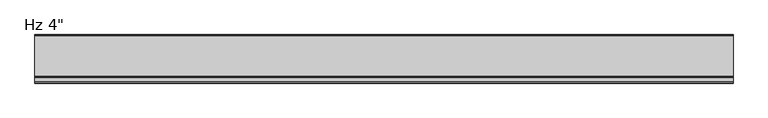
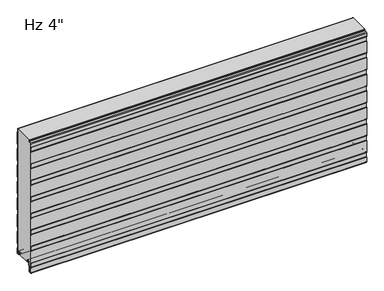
"""IFC4 building model written with IfcOpenShell, lengths in millimetres: plate geometry."""

from ifc_helpers import new_model, si_unit, point, frame, frame_2d, origin, place, context, project, spatial, polyline, circle_curve, trimmed, segment, composite_curve, outline, extrude, source, transform, mapped, element, save
from ifc_brep_helpers import plane_surface, cylinder_surface, revolved_surface, advanced_brep


def plate_1b91cf0f(model_context):
    return source(origin(), model_context, "Body", "SolidModel", [
        advanced_brep(
        [(-730.0, -17.0015368, 2.0313088), (-730.0, -18.00154, 1.0313116), (-730.0, -19.0015313, 2.0313088), (-730.0, -19.0015314, 6.0315125), (-730.0, -18.0015368, 6.0315125), (-730.0, -18.0015368, 8.7237223), (-730.0, -14.7015411, 12.023718), (-730.0, -10.3015499, 12.023718), (-730.0, -7.0015544, 8.7237225), (-730.0, -7.0015544, -1.6962564), (-730.0, -5.2315602, -3.4662506), (-730.0, -1.0000126, -3.4662506), (-730.0, -1.0000126, 21.034026), (-730.0, -2.2002516, 22.4196686), (-730.0, -2.2002516, 41.7948349), (-730.0, -1.0000209, 43.1804679), (-730.0, -1.0000209, 97.2338833), (-730.0, -2.2002516, 98.6195162), (-730.0, -2.2002516, 117.9946825), (-730.0, -1.0000209, 119.3803155), (-730.0, -1.0000209, 173.4337309), (-730.0, -2.2002516, 174.8193638), (-730.0, -2.2002516, 194.1945301), (-730.0, -1.0000209, 195.5801631), (-730.0, -1.0000209, 249.6335785), (-730.0, -2.2002516, 251.0192114), (-730.0, -2.2002516, 270.3943777), (-730.0, -1.0000209, 271.7800107), (-730.0, -1.0000209, 325.8334261), (-730.0, -2.2002516, 327.219059), (-730.0, -2.2002516, 346.5942253), (-730.0, -1.0000209, 347.9798583), (-730.0, -1.0000209, 402.0332737), (-730.0, -2.2002516, 403.4189066), (-730.0, -2.2002516, 422.7940729), (-730.0, -1.0000209, 424.1797059), (-730.0, -1.0000209, 478.2331213), (-730.0, -2.2002516, 479.6187542), (-730.0, -2.2002516, 498.9939205), (-730.0, -1.0000209, 500.3795535), (-730.0, -1.0000209, 554.4329689), (-730.0, -2.2002516, 555.8186018), (-730.0, -2.2002516, 571.2), (-730.0, -1.2002516, 571.2), (-730.0, -1.2002516, 556.1914823), (-730.0, -0.3418094, 555.2004346), (-730.0, -2.09e-05, 554.2838177), (-730.0, -2.09e-05, 500.5287046), (-730.0, -0.3418094, 499.6120877), (-730.0, -1.2002516, 498.6210401), (-730.0, -1.2002516, 479.9916347), (-730.0, -0.3418094, 479.000587), (-730.0, -2.09e-05, 478.0839701), (-730.0, -2.09e-05, 424.328857), (-730.0, -0.3418094, 423.4122401), (-730.0, -1.2002516, 422.4211925), (-730.0, -1.2002516, 403.7917871), (-730.0, -0.3418094, 402.8007394), (-730.0, -2.09e-05, 401.8841225), (-730.0, -2.09e-05, 348.1290094), (-730.0, -0.3418094, 347.2123925), (-730.0, -1.2002516, 346.2213449), (-730.0, -1.2002516, 327.5919395), (-730.0, -0.3418094, 326.6008918), (-730.0, -2.09e-05, 325.6842749), (-730.0, -2.09e-05, 271.9291618), (-730.0, -0.3418094, 271.0125449), (-730.0, -1.2002516, 270.0214973), (-730.0, -1.2002516, 251.3920919), (-730.0, -0.3418094, 250.4010442), (-730.0, -2.09e-05, 249.4844273), (-730.0, -2.09e-05, 195.7293142), (-730.0, -0.3418094, 194.8126973), (-730.0, -1.2002516, 193.8216497), (-730.0, -1.2002516, 175.1922443), (-730.0, -0.3418094, 174.2011966), (-730.0, -2.09e-05, 173.2845797), (-730.0, -2.09e-05, 119.5294666), (-730.0, -0.3418094, 118.6128497), (-730.0, -1.2002516, 117.6218021), (-730.0, -1.2002516, 98.9923967), (-730.0, -0.3418094, 98.001349), (-730.0, -2.09e-05, 97.0847321), (-730.0, -2.09e-05, 43.329619), (-730.0, -0.3418094, 42.4130021), (-730.0, -1.2002516, 41.4219545), (-730.0, -1.2002516, 22.7925491), (-730.0, -0.3418094, 21.8015014), (-730.0, -2.09e-05, 20.8847931), (-730.0, -1.26e-05, -3.0662545), (-730.0, -1.4000087, -4.4662506), (-730.0, -5.2315602, -4.4662506), (-730.0, -8.0015544, -1.6962564), (-730.0, -8.0015544, 8.7237225), (-730.0, -10.3015499, 11.023718), (-730.0, -14.7015411, 11.023718), (-730.0, -17.0015368, 8.7237223), (730.0, -17.0015368, 2.0313088), (730.0, -17.0015368, 8.7237223), (730.0, -14.7015411, 11.023718), (730.0, -10.3015499, 11.023718), (730.0, -8.0015544, 8.7237225), (730.0, -8.0015544, -1.6962564), (730.0, -5.2315602, -4.4662506), (730.0, -1.4000087, -4.4662506), (730.0, -1.26e-05, -3.0662545), (730.0, -1.26e-05, 20.8848845), (730.0, -0.3418094, 21.8015014), (730.0, -1.2002516, 22.7925491), (730.0, -1.2002516, 41.4219545), (730.0, -0.3418094, 42.4130021), (730.0, -2.09e-05, 43.329619), (730.0, -2.09e-05, 97.0847321), (730.0, -0.3418094, 98.001349), (730.0, -1.2002516, 98.9923967), (730.0, -1.2002516, 117.6218021), (730.0, -0.3418094, 118.6128497), (730.0, -2.09e-05, 119.5294666), (730.0, -2.09e-05, 173.2845797), (730.0, -0.3418094, 174.2011966), (730.0, -1.2002516, 175.1922443), (730.0, -1.2002516, 193.8216497), (730.0, -0.3418094, 194.8126973), (730.0, -2.09e-05, 195.7293142), (730.0, -2.09e-05, 249.4844273), (730.0, -0.3418094, 250.4010442), (730.0, -1.2002516, 251.3920919), (730.0, -1.2002516, 270.0214973), (730.0, -0.3418094, 271.0125449), (730.0, -2.09e-05, 271.9291618), (730.0, -2.09e-05, 325.6842749), (730.0, -0.3418094, 326.6008918), (730.0, -1.2002516, 327.5919395), (730.0, -1.2002516, 346.2213449), (730.0, -0.3418094, 347.2123925), (730.0, -2.09e-05, 348.1290094), (730.0, -2.09e-05, 401.8841225), (730.0, -0.3418094, 402.8007394), (730.0, -1.2002516, 403.7917871), (730.0, -1.2002516, 422.4211925), (730.0, -0.3418094, 423.4122401), (730.0, -2.09e-05, 424.328857), (730.0, -2.09e-05, 478.0839701), (730.0, -0.3418094, 479.000587), (730.0, -1.2002516, 479.9916347), (730.0, -1.2002516, 498.6210401), (730.0, -0.3418094, 499.6120877), (730.0, -2.09e-05, 500.5287046), (730.0, -2.09e-05, 554.2838177), (730.0, -0.3418094, 555.2004346), (730.0, -1.2002516, 556.1914823), (730.0, -1.2002516, 571.2), (730.0, -2.2002516, 571.2), (730.0, -2.2002516, 555.8186018), (730.0, -1.0000209, 554.4329689), (730.0, -1.0000209, 500.3795535), (730.0, -2.2002516, 498.9939205), (730.0, -2.2002516, 479.6187542), (730.0, -1.0000209, 478.2331213), (730.0, -1.0000209, 424.1797059), (730.0, -2.2002516, 422.7940729), (730.0, -2.2002516, 403.4189066), (730.0, -1.0000209, 402.0332737), (730.0, -1.0000209, 347.9798583), (730.0, -2.2002516, 346.5942253), (730.0, -2.2002516, 327.219059), (730.0, -1.0000209, 325.8334261), (730.0, -1.0000209, 271.7800107), (730.0, -2.2002516, 270.3943777), (730.0, -2.2002516, 251.0192114), (730.0, -1.0000209, 249.6335785), (730.0, -1.0000209, 195.5801631), (730.0, -2.2002516, 194.1945301), (730.0, -2.2002516, 174.8193638), (730.0, -1.0000209, 173.4337309), (730.0, -1.0000209, 119.3803155), (730.0, -2.2002516, 117.9946825), (730.0, -2.2002516, 98.6195162), (730.0, -1.0000209, 97.2338833), (730.0, -1.0000209, 43.1804679), (730.0, -2.2002516, 41.7948349), (730.0, -2.2002516, 22.4196686), (730.0, -1.0000126, 21.034026), (730.0, -1.0000126, -3.4662506), (730.0, -5.2315602, -3.4662506), (730.0, -7.0015544, -1.6962564), (730.0, -7.0015544, 8.7237225), (730.0, -10.3015499, 12.023718), (730.0, -14.7015411, 12.023718), (730.0, -18.0015368, 8.7237223), (730.0, -18.0015368, 6.0315125), (730.0, -19.0015314, 6.0315125), (730.0, -19.0015314, 2.0313088), (730.0, -18.00154, 1.0313116)],
        [
            (0, 1, circle_curve(frame((-730.0, -18.0015341, 2.0313088), z_axis=(-1.0, 0.0, 0.0), x_axis=(0.0, 0.0, 1.0)), 0.9999973)),
            (1, 2, circle_curve(frame((-730.0, -18.0015341, 2.0313088), z_axis=(-1.0, 0.0, 0.0), x_axis=(0.0, 0.0, 1.0)), 0.9999972)),
            (2, 3),
            (3, 4),
            (4, 5),
            (5, 6, circle_curve(frame((-730.0, -14.7015411, 8.7237223), z_axis=(-1.0, 0.0, 0.0), x_axis=(0.0, 0.0, 1.0)), 3.2999957)),
            (6, 7),
            (7, 8, circle_curve(frame((-730.0, -10.3015499, 8.7237225), z_axis=(-1.0, 0.0, 0.0), x_axis=(0.0, 0.0, 1.0)), 3.2999955)),
            (8, 9),
            (9, 10, circle_curve(frame((-730.0, -5.2315602, -1.6962564), z_axis=(1.0, 0.0, 0.0), x_axis=(0.0, 0.0, 1.0)), 1.7699942)),
            (10, 11),
            (11, 12),
            (12, 13),
            (13, 14),
            (14, 15),
            (15, 16),
            (16, 17),
            (17, 18),
            (18, 19),
            (19, 20),
            (20, 21),
            (21, 22),
            (22, 23),
            (23, 24),
            (24, 25),
            (25, 26),
            (26, 27),
            (27, 28),
            (28, 29),
            (29, 30),
            (30, 31),
            (31, 32),
            (32, 33),
            (33, 34),
            (34, 35),
            (35, 36),
            (36, 37),
            (37, 38),
            (38, 39),
            (39, 40),
            (40, 41),
            (41, 42),
            (42, 43),
            (43, 44),
            (44, 45),
            (45, 46, circle_curve(frame((-730.0, -1.4000181, 554.2838177), z_axis=(-1.0, 0.0, 0.0), x_axis=(0.0, 0.0, 1.0)), 1.3999972)),
            (46, 47),
            (47, 48, circle_curve(frame((-730.0, -1.4000181, 500.5287046), z_axis=(-1.0, 0.0, 0.0), x_axis=(0.0, 0.0, 1.0)), 1.3999972)),
            (48, 49),
            (49, 50),
            (50, 51),
            (51, 52, circle_curve(frame((-730.0, -1.4000181, 478.0839701), z_axis=(-1.0, 0.0, 0.0), x_axis=(0.0, 0.0, 1.0)), 1.3999972)),
            (52, 53),
            (53, 54, circle_curve(frame((-730.0, -1.4000181, 424.328857), z_axis=(-1.0, 0.0, 0.0), x_axis=(0.0, 0.0, 1.0)), 1.3999972)),
            (54, 55),
            (55, 56),
            (56, 57),
            (57, 58, circle_curve(frame((-730.0, -1.4000181, 401.8841225), z_axis=(-1.0, 0.0, 0.0), x_axis=(0.0, 0.0, 1.0)), 1.3999972)),
            (58, 59),
            (59, 60, circle_curve(frame((-730.0, -1.4000181, 348.1290094), z_axis=(-1.0, 0.0, 0.0), x_axis=(0.0, 0.0, 1.0)), 1.3999972)),
            (60, 61),
            (61, 62),
            (62, 63),
            (63, 64, circle_curve(frame((-730.0, -1.4000181, 325.6842749), z_axis=(-1.0, 0.0, 0.0), x_axis=(0.0, 0.0, 1.0)), 1.3999972)),
            (64, 65),
            (65, 66, circle_curve(frame((-730.0, -1.4000181, 271.9291618), z_axis=(-1.0, 0.0, 0.0), x_axis=(0.0, 0.0, 1.0)), 1.3999972)),
            (66, 67),
            (67, 68),
            (68, 69),
            (69, 70, circle_curve(frame((-730.0, -1.4000181, 249.4844273), z_axis=(-1.0, 0.0, 0.0), x_axis=(0.0, 0.0, 1.0)), 1.3999972)),
            (70, 71),
            (71, 72, circle_curve(frame((-730.0, -1.4000181, 195.7293142), z_axis=(-1.0, 0.0, 0.0), x_axis=(0.0, 0.0, 1.0)), 1.3999972)),
            (72, 73),
            (73, 74),
            (74, 75),
            (75, 76, circle_curve(frame((-730.0, -1.4000181, 173.2845797), z_axis=(-1.0, 0.0, 0.0), x_axis=(0.0, 0.0, 1.0)), 1.3999972)),
            (76, 77),
            (77, 78, circle_curve(frame((-730.0, -1.4000181, 119.5294666), z_axis=(-1.0, 0.0, 0.0), x_axis=(0.0, 0.0, 1.0)), 1.3999972)),
            (78, 79),
            (79, 80),
            (80, 81),
            (81, 82, circle_curve(frame((-730.0, -1.4000181, 97.0847321), z_axis=(-1.0, 0.0, 0.0), x_axis=(0.0, 0.0, 1.0)), 1.3999972)),
            (82, 83),
            (83, 84, circle_curve(frame((-730.0, -1.4000181, 43.329619), z_axis=(-1.0, 0.0, 0.0), x_axis=(0.0, 0.0, 1.0)), 1.3999972)),
            (84, 85),
            (85, 86),
            (86, 87),
            (87, 88, circle_curve(frame((-730.0, -1.4000181, 20.8848845), z_axis=(-1.0, 0.0, 0.0), x_axis=(0.0, 0.0, 1.0)), 1.3999972)),
            (88, 89),
            (89, 90, circle_curve(frame((-730.0, -1.4000087, -3.0662545), z_axis=(-1.0, 0.0, 0.0), x_axis=(0.0, 0.0, 1.0)), 1.3999962)),
            (90, 91),
            (91, 92, circle_curve(frame((-730.0, -5.2315602, -1.6962564), z_axis=(-1.0, 0.0, 0.0), x_axis=(0.0, 0.0, 1.0)), 2.7699942)),
            (92, 93),
            (93, 94, circle_curve(frame((-730.0, -10.3015499, 8.7237225), z_axis=(1.0, 0.0, 0.0), x_axis=(0.0, 0.0, 1.0)), 2.2999955)),
            (94, 95),
            (95, 96, circle_curve(frame((-730.0, -14.7015411, 8.7237223), z_axis=(1.0, 0.0, 0.0), x_axis=(0.0, 0.0, 1.0)), 2.2999957)),
            (96, 0),
            (97, 98),
            (98, 99, circle_curve(frame((730.0, -14.7015411, 8.7237223), z_axis=(-1.0, 0.0, 0.0), x_axis=(0.0, 0.0, 1.0)), 2.2999957)),
            (99, 100),
            (100, 101, circle_curve(frame((730.0, -10.3015499, 8.7237225), z_axis=(-1.0, 0.0, 0.0), x_axis=(0.0, 0.0, 1.0)), 2.2999955)),
            (101, 102),
            (102, 103, circle_curve(frame((730.0, -5.2315602, -1.6962564), z_axis=(1.0, 0.0, 0.0), x_axis=(0.0, 0.0, 1.0)), 2.7699942)),
            (103, 104),
            (104, 105, circle_curve(frame((730.0, -1.4000087, -3.0662545), z_axis=(1.0, 0.0, 0.0), x_axis=(0.0, 0.0, 1.0)), 1.3999962)),
            (105, 106),
            (106, 107, circle_curve(frame((730.0, -1.4000181, 20.8848845), z_axis=(1.0, 0.0, 0.0), x_axis=(0.0, 0.0, 1.0)), 1.3999972)),
            (107, 108),
            (108, 109),
            (109, 110),
            (110, 111, circle_curve(frame((730.0, -1.4000181, 43.329619), z_axis=(1.0, 0.0, 0.0), x_axis=(0.0, 0.0, 1.0)), 1.3999972)),
            (111, 112),
            (112, 113, circle_curve(frame((730.0, -1.4000181, 97.0847321), z_axis=(1.0, 0.0, 0.0), x_axis=(0.0, 0.0, 1.0)), 1.3999972)),
            (113, 114),
            (114, 115),
            (115, 116),
            (116, 117, circle_curve(frame((730.0, -1.4000181, 119.5294666), z_axis=(1.0, 0.0, 0.0), x_axis=(0.0, 0.0, 1.0)), 1.3999972)),
            (117, 118),
            (118, 119, circle_curve(frame((730.0, -1.4000181, 173.2845797), z_axis=(1.0, 0.0, 0.0), x_axis=(0.0, 0.0, 1.0)), 1.3999972)),
            (119, 120),
            (120, 121),
            (121, 122),
            (122, 123, circle_curve(frame((730.0, -1.4000181, 195.7293142), z_axis=(1.0, 0.0, 0.0), x_axis=(0.0, 0.0, 1.0)), 1.3999972)),
            (123, 124),
            (124, 125, circle_curve(frame((730.0, -1.4000181, 249.4844273), z_axis=(1.0, 0.0, 0.0), x_axis=(0.0, 0.0, 1.0)), 1.3999972)),
            (125, 126),
            (126, 127),
            (127, 128),
            (128, 129, circle_curve(frame((730.0, -1.4000181, 271.9291618), z_axis=(1.0, 0.0, 0.0), x_axis=(0.0, 0.0, 1.0)), 1.3999972)),
            (129, 130),
            (130, 131, circle_curve(frame((730.0, -1.4000181, 325.6842749), z_axis=(1.0, 0.0, 0.0), x_axis=(0.0, 0.0, 1.0)), 1.3999972)),
            (131, 132),
            (132, 133),
            (133, 134),
            (134, 135, circle_curve(frame((730.0, -1.4000181, 348.1290094), z_axis=(1.0, 0.0, 0.0), x_axis=(0.0, 0.0, 1.0)), 1.3999972)),
            (135, 136),
            (136, 137, circle_curve(frame((730.0, -1.4000181, 401.8841225), z_axis=(1.0, 0.0, 0.0), x_axis=(0.0, 0.0, 1.0)), 1.3999972)),
            (137, 138),
            (138, 139),
            (139, 140),
            (140, 141, circle_curve(frame((730.0, -1.4000181, 424.328857), z_axis=(1.0, 0.0, 0.0), x_axis=(0.0, 0.0, 1.0)), 1.3999972)),
            (141, 142),
            (142, 143, circle_curve(frame((730.0, -1.4000181, 478.0839701), z_axis=(1.0, 0.0, 0.0), x_axis=(0.0, 0.0, 1.0)), 1.3999972)),
            (143, 144),
            (144, 145),
            (145, 146),
            (146, 147, circle_curve(frame((730.0, -1.4000181, 500.5287046), z_axis=(1.0, 0.0, 0.0), x_axis=(0.0, 0.0, 1.0)), 1.3999972)),
            (147, 148),
            (148, 149, circle_curve(frame((730.0, -1.4000181, 554.2838177), z_axis=(1.0, 0.0, 0.0), x_axis=(0.0, 0.0, 1.0)), 1.3999972)),
            (149, 150),
            (150, 151),
            (151, 152),
            (152, 153),
            (153, 154),
            (154, 155),
            (155, 156),
            (156, 157),
            (157, 158),
            (158, 159),
            (159, 160),
            (160, 161),
            (161, 162),
            (162, 163),
            (163, 164),
            (164, 165),
            (165, 166),
            (166, 167),
            (167, 168),
            (168, 169),
            (169, 170),
            (170, 171),
            (171, 172),
            (172, 173),
            (173, 174),
            (174, 175),
            (175, 176),
            (176, 177),
            (177, 178),
            (178, 179),
            (179, 180),
            (180, 181),
            (181, 182),
            (182, 183),
            (183, 184),
            (184, 185, circle_curve(frame((730.0, -5.2315602, -1.6962564), z_axis=(-1.0, 0.0, 0.0), x_axis=(0.0, 0.0, 1.0)), 1.7699942)),
            (185, 186),
            (186, 187, circle_curve(frame((730.0, -10.3015499, 8.7237225), z_axis=(1.0, 0.0, 0.0), x_axis=(0.0, 0.0, 1.0)), 3.2999955)),
            (187, 188),
            (188, 189, circle_curve(frame((730.0, -14.7015411, 8.7237223), z_axis=(1.0, 0.0, 0.0), x_axis=(0.0, 0.0, 1.0)), 3.2999957)),
            (189, 190),
            (190, 191),
            (191, 192),
            (192, 193, circle_curve(frame((730.0, -18.0015341, 2.0313088), z_axis=(1.0, 0.0, 0.0), x_axis=(0.0, 0.0, 1.0)), 0.9999972)),
            (193, 97, circle_curve(frame((730.0, -18.0015341, 2.0313088), z_axis=(1.0, 0.0, 0.0), x_axis=(0.0, 0.0, 1.0)), 0.9999973)),
            (96, 98),
            (97, 0),
            (95, 99),
            (94, 100),
            (93, 101),
            (92, 102),
            (91, 103),
            (90, 104),
            (89, 105),
            (88, 106),
            (70, 124),
            (123, 71),
            (87, 107),
            (86, 108),
            (85, 109),
            (83, 111),
            (110, 84),
            (81, 113),
            (112, 82),
            (66, 128),
            (127, 67),
            (122, 72),
            (121, 73),
            (76, 118),
            (117, 77),
            (69, 125),
            (68, 126),
            (65, 129),
            (116, 78),
            (79, 115),
            (114, 80),
            (75, 119),
            (74, 120),
            (2, 192),
            (191, 3),
            (1, 193),
            (64, 130),
            (63, 131),
            (62, 132),
            (61, 133),
            (60, 134),
            (59, 135),
            (58, 136),
            (31, 163),
            (162, 32),
            (30, 164),
            (29, 165),
            (28, 166),
            (27, 167),
            (26, 168),
            (25, 169),
            (24, 170),
            (23, 171),
            (22, 172),
            (21, 173),
            (20, 174),
            (19, 175),
            (18, 176),
            (17, 177),
            (16, 178),
            (15, 179),
            (14, 180),
            (13, 181),
            (12, 182),
            (11, 183),
            (10, 184),
            (9, 185),
            (8, 186),
            (7, 187),
            (6, 188),
            (5, 189),
            (4, 190),
            (42, 152),
            (151, 43),
            (57, 137),
            (56, 138),
            (54, 140),
            (139, 55),
            (51, 143),
            (142, 52),
            (50, 144),
            (48, 146),
            (145, 49),
            (45, 149),
            (148, 46),
            (44, 150),
            (41, 153),
            (40, 154),
            (39, 155),
            (38, 156),
            (53, 141),
            (47, 147),
            (37, 157),
            (36, 158),
            (35, 159),
            (34, 160),
            (33, 161),
        ],
        [
            plane_surface(frame((-730.0, -2.09e-05, 304.8), z_axis=(-1.0, 0.0, 0.0), x_axis=(0.0, 1.0, 0.0))),
            plane_surface(frame((730.0, -2.09e-05, 304.8), z_axis=(1.0, 0.0, 0.0), x_axis=(0.0, 1.0, 0.0))),
            plane_surface(frame((-730.0, -17.0015368, 2.0313088), z_axis=(0.0, 1.0, 0.0), x_axis=(1.0, 0.0, 0.0))),
            revolved_surface(polyline([(730.0, -14.7015411, 11.023718), (-730.0, -14.7015411, 11.023718)]), (-730.0, -14.7015411, 8.7237223), (1.0, 0.0, 0.0)),
            plane_surface(frame((-730.0, -14.7015411, 11.023718), z_axis=(0.0, 0.0, -1.0), x_axis=(1.0, 0.0, 0.0))),
            revolved_surface(polyline([(730.0, -10.3015499, 11.023717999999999), (-730.0, -10.3015499, 11.023717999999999)]), (-730.0, -10.3015499, 8.7237225), (1.0, 0.0, 0.0)),
            plane_surface(frame((-730.0, -8.0015544, 8.7237225), z_axis=(0.0, -1.0, 0.0), x_axis=(1.0, 0.0, 0.0))),
            cylinder_surface(frame((-730.0, -5.2315602, -1.6962564), z_axis=(-1.0, 0.0, 0.0), x_axis=(0.0, 0.0, 1.0)), 2.7699942),
            plane_surface(frame((-730.0, -5.2315602, -4.4662506), z_axis=(0.0, 0.0, -1.0), x_axis=(1.0, 0.0, 0.0))),
            cylinder_surface(frame((-730.0, -1.4000087, -3.0662545), z_axis=(-1.0, 0.0, 0.0), x_axis=(0.0, 0.0, 1.0)), 1.3999962),
            plane_surface(frame((-730.0, -1.26e-05, -3.0662545), z_axis=(0.0, 1.0, 0.0), x_axis=(1.0, 0.0, 0.0))),
            plane_surface(frame((-730.0, -2.09e-05, 195.7293142), z_axis=(0.0, 1.0, 0.0), x_axis=(1.0, 0.0, 0.0))),
            cylinder_surface(frame((-730.0, -1.4000181, 20.8848845), z_axis=(-1.0, 0.0, 0.0), x_axis=(0.0, 0.0, 1.0)), 1.3999972),
            plane_surface(frame((-730.0, -0.3418094, 21.8015014), z_axis=(0.0, 0.755864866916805, 0.6547276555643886), x_axis=(1.0, 0.0, 0.0))),
            plane_surface(frame((-730.0, -1.2002516, 32.1072518), z_axis=(0.0, 1.0, 0.0), x_axis=(1.0, 0.0, 0.0))),
            cylinder_surface(frame((-730.0, -1.4000181, 43.329619), z_axis=(-1.0, 0.0, 0.0), x_axis=(0.0, 0.0, 1.0)), 1.3999972),
            plane_surface(frame((-730.0, -1.2002516, 41.4219545), z_axis=(0.0, 0.755864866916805, -0.6547276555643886), x_axis=(1.0, 0.0, 0.0))),
            cylinder_surface(frame((-730.0, -1.4000181, 97.0847321), z_axis=(-1.0, 0.0, 0.0), x_axis=(0.0, 0.0, 1.0)), 1.3999972),
            plane_surface(frame((-730.0, -1.2002516, 270.0214973), z_axis=(0.0, 0.755864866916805, -0.6547276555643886), x_axis=(1.0, 0.0, 0.0))),
            cylinder_surface(frame((-730.0, -1.4000181, 195.7293142), z_axis=(-1.0, 0.0, 0.0), x_axis=(0.0, 0.0, 1.0)), 1.3999972),
            plane_surface(frame((-730.0, -1.2002516, 193.8216497), z_axis=(0.0, 0.755864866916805, -0.6547276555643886), x_axis=(1.0, 0.0, 0.0))),
            plane_surface(frame((-730.0, -2.09e-05, 119.5294666), z_axis=(0.0, 1.0, 0.0), x_axis=(1.0, 0.0, 0.0))),
            cylinder_surface(frame((-730.0, -1.4000181, 249.4844273), z_axis=(-1.0, 0.0, 0.0), x_axis=(0.0, 0.0, 1.0)), 1.3999972),
            plane_surface(frame((-730.0, -0.3418094, 250.4010442), z_axis=(0.0, 0.755864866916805, 0.6547276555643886), x_axis=(1.0, 0.0, 0.0))),
            plane_surface(frame((-730.0, -1.2002516, 260.7067946), z_axis=(0.0, 1.0, 0.0), x_axis=(1.0, 0.0, 0.0))),
            cylinder_surface(frame((-730.0, -1.4000181, 271.9291618), z_axis=(-1.0, 0.0, 0.0), x_axis=(0.0, 0.0, 1.0)), 1.3999972),
            cylinder_surface(frame((-730.0, -1.4000181, 119.5294666), z_axis=(-1.0, 0.0, 0.0), x_axis=(0.0, 0.0, 1.0)), 1.3999972),
            plane_surface(frame((-730.0, -1.2002516, 108.3070994), z_axis=(0.0, 1.0, 0.0), x_axis=(1.0, 0.0, 0.0))),
            plane_surface(frame((-730.0, -0.3418094, 98.001349), z_axis=(0.0, 0.755864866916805, 0.6547276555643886), x_axis=(1.0, 0.0, 0.0))),
            plane_surface(frame((-730.0, -1.2002516, 117.6218021), z_axis=(0.0, 0.755864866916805, -0.6547276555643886), x_axis=(1.0, 0.0, 0.0))),
            plane_surface(frame((-730.0, -2.09e-05, 43.329619), z_axis=(0.0, 1.0, 0.0), x_axis=(1.0, 0.0, 0.0))),
            cylinder_surface(frame((-730.0, -1.4000181, 173.2845797), z_axis=(-1.0, 0.0, 0.0), x_axis=(0.0, 0.0, 1.0)), 1.3999972),
            plane_surface(frame((-730.0, -0.3418094, 174.2011966), z_axis=(0.0, 0.755864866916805, 0.6547276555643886), x_axis=(1.0, 0.0, 0.0))),
            plane_surface(frame((-730.0, -1.2002516, 184.506947), z_axis=(0.0, 1.0, 0.0), x_axis=(1.0, 0.0, 0.0))),
            plane_surface(frame((-730.0, -19.0015314, 6.0315125), z_axis=(0.0, -1.0, 0.0), x_axis=(1.0, 0.0, 0.0))),
            cylinder_surface(frame((-730.0, -18.0015341, 2.0313088), z_axis=(-1.0, 0.0, 0.0), x_axis=(0.0, 0.0, 1.0)), 0.9999972),
            cylinder_surface(frame((-730.0, -18.0015341, 2.0313088), z_axis=(-1.0, 0.0, 0.0), x_axis=(0.0, 0.0, 1.0)), 0.9999973),
            plane_surface(frame((-730.0, -2.09e-05, 271.9291618), z_axis=(0.0, 1.0, 0.0), x_axis=(1.0, 0.0, 0.0))),
            cylinder_surface(frame((-730.0, -1.4000181, 325.6842749), z_axis=(-1.0, 0.0, 0.0), x_axis=(0.0, 0.0, 1.0)), 1.3999972),
            plane_surface(frame((-730.0, -0.3418094, 326.6008918), z_axis=(0.0, 0.755864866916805, 0.6547276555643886), x_axis=(1.0, 0.0, 0.0))),
            plane_surface(frame((-730.0, -1.2002516, 336.9066422), z_axis=(0.0, 1.0, 0.0), x_axis=(1.0, 0.0, 0.0))),
            plane_surface(frame((-730.0, -1.2002516, 346.2213449), z_axis=(0.0, 0.755864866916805, -0.6547276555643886), x_axis=(1.0, 0.0, 0.0))),
            cylinder_surface(frame((-730.0, -1.4000181, 348.1290094), z_axis=(-1.0, 0.0, 0.0), x_axis=(0.0, 0.0, 1.0)), 1.3999972),
            plane_surface(frame((-730.0, -2.09e-05, 348.1290094), z_axis=(0.0, 1.0, 0.0), x_axis=(1.0, 0.0, 0.0))),
            plane_surface(frame((-730.0, -1.0000209, 402.0332737), z_axis=(0.0, -1.0, 0.0), x_axis=(1.0, 0.0, 0.0))),
            plane_surface(frame((-730.0, -1.0000209, 347.9798583), z_axis=(0.0, -0.755864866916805, 0.6547276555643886), x_axis=(1.0, 0.0, 0.0))),
            plane_surface(frame((-730.0, -2.2002516, 346.5942253), z_axis=(0.0, -1.0, 0.0), x_axis=(1.0, 0.0, 0.0))),
            plane_surface(frame((-730.0, -2.2002516, 327.219059), z_axis=(0.0, -0.755864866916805, -0.6547276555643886), x_axis=(1.0, 0.0, 0.0))),
            plane_surface(frame((-730.0, -1.0000209, 325.8334261), z_axis=(0.0, -1.0, 0.0), x_axis=(1.0, 0.0, 0.0))),
            plane_surface(frame((-730.0, -1.0000209, 271.7800107), z_axis=(0.0, -0.755864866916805, 0.6547276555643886), x_axis=(1.0, 0.0, 0.0))),
            plane_surface(frame((-730.0, -2.2002516, 270.3943777), z_axis=(0.0, -1.0, 0.0), x_axis=(1.0, 0.0, 0.0))),
            plane_surface(frame((-730.0, -2.2002516, 251.0192114), z_axis=(0.0, -0.755864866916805, -0.6547276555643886), x_axis=(1.0, 0.0, 0.0))),
            plane_surface(frame((-730.0, -1.0000209, 249.6335785), z_axis=(0.0, -1.0, 0.0), x_axis=(1.0, 0.0, 0.0))),
            plane_surface(frame((-730.0, -1.0000209, 195.5801631), z_axis=(0.0, -0.755864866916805, 0.6547276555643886), x_axis=(1.0, 0.0, 0.0))),
            plane_surface(frame((-730.0, -2.2002516, 194.1945301), z_axis=(0.0, -1.0, 0.0), x_axis=(1.0, 0.0, 0.0))),
            plane_surface(frame((-730.0, -2.2002516, 174.8193638), z_axis=(0.0, -0.755864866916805, -0.6547276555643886), x_axis=(1.0, 0.0, 0.0))),
            plane_surface(frame((-730.0, -1.0000209, 173.4337309), z_axis=(0.0, -1.0, 0.0), x_axis=(1.0, 0.0, 0.0))),
            plane_surface(frame((-730.0, -1.0000209, 119.3803155), z_axis=(0.0, -0.755864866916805, 0.6547276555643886), x_axis=(1.0, 0.0, 0.0))),
            plane_surface(frame((-730.0, -2.2002516, 117.9946825), z_axis=(0.0, -1.0, 0.0), x_axis=(1.0, 0.0, 0.0))),
            plane_surface(frame((-730.0, -2.2002516, 98.6195162), z_axis=(0.0, -0.755864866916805, -0.6547276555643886), x_axis=(1.0, 0.0, 0.0))),
            plane_surface(frame((-730.0, -1.0000209, 97.2338833), z_axis=(0.0, -1.0, 0.0), x_axis=(1.0, 0.0, 0.0))),
            plane_surface(frame((-730.0, -1.0000209, 43.1804679), z_axis=(0.0, -0.755864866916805, 0.6547276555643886), x_axis=(1.0, 0.0, 0.0))),
            plane_surface(frame((-730.0, -2.2002516, 41.7948349), z_axis=(0.0, -1.0, 0.0), x_axis=(1.0, 0.0, 0.0))),
            plane_surface(frame((-730.0, -2.2002516, 22.4196686), z_axis=(0.0, -0.755864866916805, -0.6547276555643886), x_axis=(1.0, 0.0, 0.0))),
            plane_surface(frame((-730.0, -1.0000126, 21.034026), z_axis=(0.0, -1.0, 0.0), x_axis=(1.0, 0.0, 0.0))),
            plane_surface(frame((-730.0, -1.0000126, -3.4662506), z_axis=(0.0, 0.0, 1.0), x_axis=(1.0, 0.0, 0.0))),
            revolved_surface(polyline([(730.0, -5.2315602, 0.07373779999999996), (-730.0, -5.2315602, 0.07373779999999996)]), (-730.0, -5.2315602, -1.6962564), (1.0, 0.0, 0.0)),
            plane_surface(frame((-730.0, -7.0015544, -1.6962564), z_axis=(0.0, 1.0, 0.0), x_axis=(1.0, 0.0, 0.0))),
            cylinder_surface(frame((-730.0, -10.3015499, 8.7237225), z_axis=(-1.0, 0.0, 0.0), x_axis=(0.0, 0.0, 1.0)), 3.2999955),
            plane_surface(frame((-730.0, -10.3015499, 12.023718), z_axis=(0.0, 0.0, 1.0), x_axis=(1.0, 0.0, 0.0))),
            cylinder_surface(frame((-730.0, -14.7015411, 8.7237223), z_axis=(-1.0, 0.0, 0.0), x_axis=(0.0, 0.0, 1.0)), 3.2999957),
            plane_surface(frame((-730.0, -18.0015368, 8.7237223), z_axis=(0.0, -1.0, 0.0), x_axis=(1.0, 0.0, 0.0))),
            plane_surface(frame((-730.0, -18.0015368, 6.0315125), z_axis=(0.0, 0.0, 1.0), x_axis=(1.0, 0.0, 0.0))),
            plane_surface(frame((730.0, 9.9999791, 571.2), z_axis=(0.0, 0.0, 1.0), x_axis=(-1.0, 0.0, 0.0))),
            cylinder_surface(frame((-730.0, -1.4000181, 401.8841225), z_axis=(-1.0, 0.0, 0.0), x_axis=(0.0, 0.0, 1.0)), 1.3999972),
            plane_surface(frame((-730.0, -0.3418094, 402.8007394), z_axis=(0.0, 0.755864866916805, 0.6547276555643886), x_axis=(1.0, 0.0, 0.0))),
            plane_surface(frame((-730.0, -1.2002516, 422.4211925), z_axis=(0.0, 0.755864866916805, -0.6547276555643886), x_axis=(1.0, 0.0, 0.0))),
            cylinder_surface(frame((-730.0, -1.4000181, 478.0839701), z_axis=(-1.0, 0.0, 0.0), x_axis=(0.0, 0.0, 1.0)), 1.3999972),
            plane_surface(frame((-730.0, -0.3418094, 479.000587), z_axis=(0.0, 0.755864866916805, 0.6547276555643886), x_axis=(1.0, 0.0, 0.0))),
            plane_surface(frame((-730.0, -1.2002516, 498.6210401), z_axis=(0.0, 0.755864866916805, -0.6547276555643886), x_axis=(1.0, 0.0, 0.0))),
            cylinder_surface(frame((-730.0, -1.4000181, 554.2838177), z_axis=(-1.0, 0.0, 0.0), x_axis=(0.0, 0.0, 1.0)), 1.3999972),
            plane_surface(frame((-730.0, -0.3418094, 555.2004346), z_axis=(0.0, 0.755864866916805, 0.6547276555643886), x_axis=(1.0, 0.0, 0.0))),
            plane_surface(frame((-730.0, -2.2002516, 575.1937681), z_axis=(0.0, -1.0, 0.0), x_axis=(1.0, 0.0, 0.0))),
            plane_surface(frame((-730.0, -2.2002516, 555.8186018), z_axis=(0.0, -0.755864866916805, -0.6547276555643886), x_axis=(1.0, 0.0, 0.0))),
            plane_surface(frame((-730.0, -1.0000209, 554.4329689), z_axis=(0.0, -1.0, 0.0), x_axis=(1.0, 0.0, 0.0))),
            plane_surface(frame((-730.0, -1.0000209, 500.3795535), z_axis=(0.0, -0.755864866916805, 0.6547276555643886), x_axis=(1.0, 0.0, 0.0))),
            plane_surface(frame((-730.0, -1.2002516, 413.1064898), z_axis=(0.0, 1.0, 0.0), x_axis=(1.0, 0.0, 0.0))),
            cylinder_surface(frame((-730.0, -1.4000181, 424.328857), z_axis=(-1.0, 0.0, 0.0), x_axis=(0.0, 0.0, 1.0)), 1.3999972),
            plane_surface(frame((-730.0, -2.09e-05, 424.328857), z_axis=(0.0, 1.0, 0.0), x_axis=(1.0, 0.0, 0.0))),
            plane_surface(frame((-730.0, -1.2002516, 489.3063374), z_axis=(0.0, 1.0, 0.0), x_axis=(1.0, 0.0, 0.0))),
            cylinder_surface(frame((-730.0, -1.4000181, 500.5287046), z_axis=(-1.0, 0.0, 0.0), x_axis=(0.0, 0.0, 1.0)), 1.3999972),
            plane_surface(frame((-730.0, -2.09e-05, 500.5287046), z_axis=(0.0, 1.0, 0.0), x_axis=(1.0, 0.0, 0.0))),
            plane_surface(frame((-730.0, -1.2002516, 565.506185), z_axis=(0.0, 1.0, 0.0), x_axis=(1.0, 0.0, 0.0))),
            plane_surface(frame((-730.0, -2.2002516, 498.9939205), z_axis=(0.0, -1.0, 0.0), x_axis=(1.0, 0.0, 0.0))),
            plane_surface(frame((-730.0, -2.2002516, 479.6187542), z_axis=(0.0, -0.755864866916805, -0.6547276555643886), x_axis=(1.0, 0.0, 0.0))),
            plane_surface(frame((-730.0, -1.0000209, 478.2331213), z_axis=(0.0, -1.0, 0.0), x_axis=(1.0, 0.0, 0.0))),
            plane_surface(frame((-730.0, -1.0000209, 424.1797059), z_axis=(0.0, -0.755864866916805, 0.6547276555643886), x_axis=(1.0, 0.0, 0.0))),
            plane_surface(frame((-730.0, -2.2002516, 422.7940729), z_axis=(0.0, -1.0, 0.0), x_axis=(1.0, 0.0, 0.0))),
            plane_surface(frame((-730.0, -2.2002516, 403.4189066), z_axis=(0.0, -0.755864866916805, -0.6547276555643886), x_axis=(1.0, 0.0, 0.0))),
        ],
        [
            (0, [[1, 2, 3, 4, 5, 6, 7, 8, 9, 10, 11, 12, 13, 14, 15, 16, 17, 18, 19, 20, 21, 22, 23, 24, 25, 26, 27, 28, 29, 30, 31, 32, 33, 34, 35, 36, 37, 38, 39, 40, 41, 42, 43, 44, 45, 46, 47, 48, 49, 50, 51, 52, 53, 54, 55, 56, 57, 58, 59, 60, 61, 62, 63, 64, 65, 66, 67, 68, 69, 70, 71, 72, 73, 74, 75, 76, 77, 78, 79, 80, 81, 82, 83, 84, 85, 86, 87, 88, 89, 90, 91, 92, 93, 94, 95, 96, 97]]),
            (1, [[98, 99, 100, 101, 102, 103, 104, 105, 106, 107, 108, 109, 110, 111, 112, 113, 114, 115, 116, 117, 118, 119, 120, 121, 122, 123, 124, 125, 126, 127, 128, 129, 130, 131, 132, 133, 134, 135, 136, 137, 138, 139, 140, 141, 142, 143, 144, 145, 146, 147, 148, 149, 150, 151, 152, 153, 154, 155, 156, 157, 158, 159, 160, 161, 162, 163, 164, 165, 166, 167, 168, 169, 170, 171, 172, 173, 174, 175, 176, 177, 178, 179, 180, 181, 182, 183, 184, 185, 186, 187, 188, 189, 190, 191, 192, 193, 194]]),
            (2, [[195, -98, 196, -97]]),
            (3, [[197, -99, -195, -96]]),
            (4, [[198, -100, -197, -95]]),
            (5, [[199, -101, -198, -94]]),
            (6, [[200, -102, -199, -93]]),
            (7, [[201, -103, -200, -92]]),
            (8, [[202, -104, -201, -91]]),
            (9, [[203, -105, -202, -90]]),
            (10, [[204, -106, -203, -89]]),
            (11, [[205, -124, 206, -71]]),
            (12, [[207, -107, -204, -88]]),
            (13, [[208, -108, -207, -87]]),
            (14, [[209, -109, -208, -86]]),
            (15, [[210, -111, 211, -84]]),
            (16, [[-211, -110, -209, -85]]),
            (17, [[212, -113, 213, -82]]),
            (18, [[214, -128, 215, -67]]),
            (19, [[-206, -123, 216, -72]]),
            (20, [[-216, -122, 217, -73]]),
            (21, [[218, -118, 219, -77]]),
            (22, [[220, -125, -205, -70]]),
            (23, [[221, -126, -220, -69]]),
            (24, [[-215, -127, -221, -68]]),
            (25, [[222, -129, -214, -66]]),
            (26, [[-219, -117, 223, -78]]),
            (27, [[224, -115, 225, -80]]),
            (28, [[-225, -114, -212, -81]]),
            (29, [[-223, -116, -224, -79]]),
            (30, [[-213, -112, -210, -83]]),
            (31, [[226, -119, -218, -76]]),
            (32, [[227, -120, -226, -75]]),
            (33, [[-217, -121, -227, -74]]),
            (34, [[228, -192, 229, -3]]),
            (35, [[230, -193, -228, -2]]),
            (36, [[-196, -194, -230, -1]]),
            (37, [[231, -130, -222, -65]]),
            (38, [[232, -131, -231, -64]]),
            (39, [[233, -132, -232, -63]]),
            (40, [[234, -133, -233, -62]]),
            (41, [[235, -134, -234, -61]]),
            (42, [[236, -135, -235, -60]]),
            (43, [[237, -136, -236, -59]]),
            (44, [[238, -163, 239, -32]]),
            (45, [[240, -164, -238, -31]]),
            (46, [[241, -165, -240, -30]]),
            (47, [[242, -166, -241, -29]]),
            (48, [[243, -167, -242, -28]]),
            (49, [[244, -168, -243, -27]]),
            (50, [[245, -169, -244, -26]]),
            (51, [[246, -170, -245, -25]]),
            (52, [[247, -171, -246, -24]]),
            (53, [[248, -172, -247, -23]]),
            (54, [[249, -173, -248, -22]]),
            (55, [[250, -174, -249, -21]]),
            (56, [[251, -175, -250, -20]]),
            (57, [[252, -176, -251, -19]]),
            (58, [[253, -177, -252, -18]]),
            (59, [[254, -178, -253, -17]]),
            (60, [[255, -179, -254, -16]]),
            (61, [[256, -180, -255, -15]]),
            (62, [[257, -181, -256, -14]]),
            (63, [[258, -182, -257, -13]]),
            (64, [[259, -183, -258, -12]]),
            (65, [[260, -184, -259, -11]]),
            (66, [[261, -185, -260, -10]]),
            (67, [[262, -186, -261, -9]]),
            (68, [[263, -187, -262, -8]]),
            (69, [[264, -188, -263, -7]]),
            (70, [[265, -189, -264, -6]]),
            (71, [[266, -190, -265, -5]]),
            (72, [[-229, -191, -266, -4]]),
            (73, [[267, -152, 268, -43]]),
            (74, [[269, -137, -237, -58]]),
            (75, [[270, -138, -269, -57]]),
            (76, [[271, -140, 272, -55]]),
            (77, [[273, -143, 274, -52]]),
            (78, [[275, -144, -273, -51]]),
            (79, [[276, -146, 277, -49]]),
            (80, [[278, -149, 279, -46]]),
            (81, [[280, -150, -278, -45]]),
            (82, [[-153, -267, -42, 281]]),
            (83, [[282, -154, -281, -41]]),
            (84, [[283, -155, -282, -40]]),
            (85, [[284, -156, -283, -39]]),
            (86, [[-272, -139, -270, -56]]),
            (87, [[285, -141, -271, -54]]),
            (88, [[-274, -142, -285, -53]]),
            (89, [[-277, -145, -275, -50]]),
            (90, [[286, -147, -276, -48]]),
            (91, [[-279, -148, -286, -47]]),
            (92, [[-44, -268, -151, -280]]),
            (93, [[287, -157, -284, -38]]),
            (94, [[288, -158, -287, -37]]),
            (95, [[289, -159, -288, -36]]),
            (96, [[290, -160, -289, -35]]),
            (97, [[291, -161, -290, -34]]),
            (98, [[-239, -162, -291, -33]]),
        ],
    ),
        extrude(outline(composite_curve([segment(trimmed(circle_curve(frame_2d((-100.1998926, -10.6415934)), 1.3998661), [point((-101.5997587, -10.6415934))], [point((-101.1325165, -9.5976403))], False, "CARTESIAN"), True, "CONTINUOUS"), segment(polyline([(-101.1325165, -9.5976403), (-100.3997902, -8.8649141), (-100.3997902, 10.0260713), (-101.1327558, 10.7590369)]), True, "CONTINUOUS"), segment(trimmed(circle_curve(frame_2d((-100.2000446, 11.8030877)), 1.3999972), [point((-101.1327558, 10.7590369))], [point((-101.6000209, 11.810741))], False, "CARTESIAN"), True, "CONTINUOUS"), segment(polyline([(-101.6000209, 11.810741), (-101.6000209, 65.5582542)]), True, "CONTINUOUS"), segment(trimmed(circle_curve(frame_2d((-100.2000237, 65.5582542)), 1.3999972), [point((-101.6000209, 65.5582542))], [point((-101.1327349, 66.602305))], False, "CARTESIAN"), True, "CONTINUOUS"), segment(polyline([(-101.1327349, 66.602305), (-100.3997902, 67.3352497), (-100.3997902, 86.2259189), (-101.1327558, 86.9588845)]), True, "CONTINUOUS"), segment(trimmed(circle_curve(frame_2d((-100.2000446, 88.0029353)), 1.3999972), [point((-101.1327558, 86.9588845))], [point((-101.6000209, 88.0105886))], False, "CARTESIAN"), True, "CONTINUOUS"), segment(polyline([(-101.6000209, 88.0105886), (-101.6000209, 141.7581018)]), True, "CONTINUOUS"), segment(trimmed(circle_curve(frame_2d((-100.2000237, 141.7581018)), 1.3999972), [point((-101.6000209, 141.7581018))], [point((-101.1327349, 142.8021526))], False, "CARTESIAN"), True, "CONTINUOUS"), segment(polyline([(-101.1327349, 142.8021526), (-100.3997902, 143.5350973), (-100.3997902, 162.4257665), (-101.1327558, 163.1587321)]), True, "CONTINUOUS"), segment(trimmed(circle_curve(frame_2d((-100.2000446, 164.2027829)), 1.3999972), [point((-101.1327558, 163.1587321))], [point((-101.6000209, 164.2104362))], False, "CARTESIAN"), True, "CONTINUOUS"), segment(polyline([(-101.6000209, 164.2104362), (-101.6000209, 217.9579494)]), True, "CONTINUOUS"), segment(trimmed(circle_curve(frame_2d((-100.2000237, 217.9579494)), 1.3999972), [point((-101.6000209, 217.9579494))], [point((-101.1327349, 219.0020002))], False, "CARTESIAN"), True, "CONTINUOUS"), segment(polyline([(-101.1327349, 219.0020002), (-100.3997902, 219.7349449), (-100.3997902, 238.6256141), (-101.1327558, 239.3585797)]), True, "CONTINUOUS"), segment(trimmed(circle_curve(frame_2d((-100.2000446, 240.4026305)), 1.3999972), [point((-101.1327558, 239.3585797))], [point((-101.6000209, 240.4102838))], False, "CARTESIAN"), True, "CONTINUOUS"), segment(polyline([(-101.6000209, 240.4102838), (-101.6000209, 294.157797)]), True, "CONTINUOUS"), segment(trimmed(circle_curve(frame_2d((-100.2000237, 294.157797)), 1.3999972), [point((-101.6000209, 294.157797))], [point((-101.1327349, 295.2018478))], False, "CARTESIAN"), True, "CONTINUOUS"), segment(polyline([(-101.1327349, 295.2018478), (-100.3997902, 295.9347925), (-100.3997902, 314.8254617), (-101.1327558, 315.5584273)]), True, "CONTINUOUS"), segment(trimmed(circle_curve(frame_2d((-100.2000446, 316.6024781)), 1.3999972), [point((-101.1327558, 315.5584273))], [point((-101.6000209, 316.6101314))], False, "CARTESIAN"), True, "CONTINUOUS"), segment(polyline([(-101.6000209, 316.6101314), (-101.6000209, 370.3576446)]), True, "CONTINUOUS"), segment(trimmed(circle_curve(frame_2d((-100.2000237, 370.3576446)), 1.3999972), [point((-101.6000209, 370.3576446))], [point((-101.1327349, 371.4016954))], False, "CARTESIAN"), True, "CONTINUOUS"), segment(polyline([(-101.1327349, 371.4016954), (-100.3997902, 372.1346401), (-100.3997902, 391.0253093), (-101.1327558, 391.7582749)]), True, "CONTINUOUS"), segment(trimmed(circle_curve(frame_2d((-100.2000446, 392.8023257)), 1.3999972), [point((-101.1327558, 391.7582749))], [point((-101.6000209, 392.809979))], False, "CARTESIAN"), True, "CONTINUOUS"), segment(polyline([(-101.6000209, 392.809979), (-101.6000209, 446.5574922)]), True, "CONTINUOUS"), segment(trimmed(circle_curve(frame_2d((-100.2000237, 446.5574922)), 1.3999972), [point((-101.6000209, 446.5574922))], [point((-101.1327349, 447.601543))], False, "CARTESIAN"), True, "CONTINUOUS"), segment(polyline([(-101.1327349, 447.601543), (-100.3997902, 448.3344877), (-100.3997902, 467.2251569), (-101.1327558, 467.9581225)]), True, "CONTINUOUS"), segment(trimmed(circle_curve(frame_2d((-100.2000446, 469.0021733)), 1.3999972), [point((-101.1327558, 467.9581225))], [point((-101.6000209, 469.0098266))], False, "CARTESIAN"), True, "CONTINUOUS"), segment(polyline([(-101.6000209, 469.0098266), (-101.6000209, 522.7573398)]), True, "CONTINUOUS"), segment(trimmed(circle_curve(frame_2d((-100.2000237, 522.7573398)), 1.3999972), [point((-101.6000209, 522.7573398))], [point((-101.1327349, 523.8013906))], False, "CARTESIAN"), True, "CONTINUOUS"), segment(polyline([(-101.1327349, 523.8013906), (-100.3997902, 524.5343353), (-100.3997902, 543.4250045), (-101.1327558, 544.1579701)]), True, "CONTINUOUS"), segment(trimmed(circle_curve(frame_2d((-100.2000446, 545.2020209)), 1.3999972), [point((-101.1327558, 544.1579701))], [point((-101.5991193, 545.2528361))], False, "CARTESIAN"), True, "CONTINUOUS"), segment(polyline([(-101.5991193, 545.2528361), (-101.5991193, 561.1384359)]), True, "CONTINUOUS"), segment(trimmed(circle_curve(frame_2d((-98.6491252, 561.1384359)), 2.9499941), [point((-101.5991193, 561.1384359))], [point((-98.9062341, 564.0772044))], False, "CARTESIAN"), True, "CONTINUOUS"), segment(polyline([(-98.9062341, 564.0772044), (-90.4419377, 564.8177344)]), True, "CONTINUOUS"), segment(trimmed(circle_curve(frame_2d((-90.6188635, 566.8400056)), 2.0299959), [point((-90.4419377, 564.8177344))], [point((-88.5914776, 566.9429135))], True, "CARTESIAN"), True, "CONTINUOUS"), segment(polyline([(-88.5914776, 566.9429135), (-88.5914776, 571.2), (-87.5914776, 571.2), (-87.5914776, 566.9657441)]), True, "CONTINUOUS"), segment(trimmed(circle_curve(frame_2d((-90.6188635, 566.8400056)), 3.0299959), [point((-87.5914776, 566.9657441))], [point((-90.354782, 563.8215397))], False, "CARTESIAN"), True, "CONTINUOUS"), segment(polyline([(-90.354782, 563.8215397), (-98.8190784, 563.0810097)]), True, "CONTINUOUS"), segment(trimmed(circle_curve(frame_2d((-98.6491252, 561.1384359)), 1.9499941), [point((-98.8190784, 563.0810097))], [point((-100.5991193, 561.1384359))], True, "CARTESIAN"), True, "CONTINUOUS"), segment(polyline([(-100.5991193, 561.1384359), (-100.5991193, 545.0396538), (-99.3997902, 543.8403247), (-99.3997902, 524.1209122), (-100.6000209, 522.9206815), (-100.6000209, 468.8405497), (-99.3997902, 467.640319), (-99.3997902, 447.9209065), (-100.6000209, 446.7206758), (-100.6000209, 392.640544), (-99.3997902, 391.4403133), (-99.3997902, 371.7209008), (-100.6000209, 370.5206701), (-100.6000209, 316.4405383), (-99.3997902, 315.2403076), (-99.3997902, 295.5208951), (-100.6000209, 294.3206644), (-100.6000209, 240.2405326), (-99.3997902, 239.0403019), (-99.3997902, 219.3208894), (-100.6000209, 218.1206587), (-100.6000209, 164.0405269), (-99.3997902, 162.8402962), (-99.3997902, 143.1208837), (-100.6000209, 141.920653), (-100.6000209, 87.8405213), (-99.3997902, 86.6402905), (-99.3997902, 66.920878), (-100.6000209, 65.7206473), (-100.6000209, 11.6405156), (-99.3997902, 10.4402849), (-99.3997902, -9.2791277), (-100.5997587, -10.4790962), (-100.5997587, -32.4521176)]), True, "CONTINUOUS"), segment(trimmed(circle_curve(frame_2d((-98.0295195, -32.4521176)), 2.5702393), [point((-100.5997587, -32.4521176))], [point((-97.8054338, -35.0125699))], True, "CARTESIAN"), True, "CONTINUOUS"), segment(polyline([(-97.8054338, -35.0125699), (-92.8236129, -34.5765709)]), True, "CONTINUOUS"), segment(trimmed(circle_curve(frame_2d((-93.3050035, -31.9198392)), 2.6999926), [point((-92.8236129, -34.5765709))], [point((-90.6050109, -31.9198392))], True, "CARTESIAN"), True, "CONTINUOUS"), segment(polyline([(-90.6050109, -31.9198392), (-90.6050109, -9.8247096), (-85.1029398, -4.3226385)]), True, "CONTINUOUS"), segment(trimmed(circle_curve(frame_2d((-86.3050175, -3.1205608)), 1.6999946), [point((-85.1029398, -4.3226385))], [point((-84.6050229, -3.1205608))], True, "CARTESIAN"), True, "CONTINUOUS"), segment(polyline([(-84.6050229, -3.1205608), (-84.6050229, 8.6903283)]), True, "CONTINUOUS"), segment(trimmed(circle_curve(frame_2d((-81.2550276, 8.6903283)), 3.3499953), [point((-84.6050229, 8.6903283))], [point((-81.2550276, 12.0403236))], False, "CARTESIAN"), True, "CONTINUOUS"), segment(polyline([(-81.2550276, 12.0403236), (-76.8550364, 12.0403236)]), True, "CONTINUOUS"), segment(trimmed(circle_curve(frame_2d((-76.8550364, 8.6903283)), 3.3499953), [point((-76.8550364, 12.0403236))], [point((-73.5050411, 8.6903283))], False, "CARTESIAN"), True, "CONTINUOUS"), segment(polyline([(-73.5050411, 8.6903283), (-73.5050411, 5.9912173), (-72.1065623, 5.9912173), (-72.1065623, 2.2328239)]), True, "CONTINUOUS"), segment(trimmed(circle_curve(frame_2d((-73.3065589, 2.2313092)), 1.1999976), [point((-72.1065623, 2.2328239))], [point((-73.276037, 1.0316999))], False, "CARTESIAN"), True, "CONTINUOUS"), segment(trimmed(circle_curve(frame_2d((-73.3065589, 2.2313092)), 1.1999976), [point((-73.276037, 1.0316999))], [point((-74.5050411, 2.1710221))], False, "CARTESIAN"), True, "CONTINUOUS"), segment(polyline([(-74.5050411, 2.1710221), (-74.5050411, 8.6903283)]), True, "CONTINUOUS"), segment(trimmed(circle_curve(frame_2d((-76.8550364, 8.6903283)), 2.3499953), [point((-74.5050411, 8.6903283))], [point((-76.8550364, 11.0403236))], True, "CARTESIAN"), True, "CONTINUOUS"), segment(polyline([(-76.8550364, 11.0403236), (-81.2550276, 11.0403236)]), True, "CONTINUOUS"), segment(trimmed(circle_curve(frame_2d((-81.2550276, 8.6903283)), 2.3499953), [point((-81.2550276, 11.0403236))], [point((-83.6050229, 8.6903283))], True, "CARTESIAN"), True, "CONTINUOUS"), segment(polyline([(-83.6050229, 8.6903283), (-83.6050229, -3.1205608)]), True, "CONTINUOUS"), segment(trimmed(circle_curve(frame_2d((-86.3050175, -3.1205608)), 2.6999946), [point((-83.6050229, -3.1205608))], [point((-84.3958331, -5.0297453))], False, "CARTESIAN"), True, "CONTINUOUS"), segment(polyline([(-84.3958331, -5.0297453), (-89.2242505, -9.8581627)]), True, "CONTINUOUS"), segment(trimmed(circle_curve(frame_2d((-88.3050135, -10.7773997)), 1.2999974), [point((-89.2242505, -9.8581627))], [point((-89.6050109, -10.7773997))], True, "CARTESIAN"), True, "CONTINUOUS"), segment(polyline([(-89.6050109, -10.7773997), (-89.6050109, -31.9198392)]), True, "CONTINUOUS"), segment(trimmed(circle_curve(frame_2d((-93.3050035, -31.9198392)), 3.6999926), [point((-89.6050109, -31.9198392))], [point((-92.6942024, -35.5690675))], False, "CARTESIAN"), True, "CONTINUOUS"), segment(polyline([(-92.6942024, -35.5690675), (-97.7182491, -36.008762)]), True, "CONTINUOUS"), segment(trimmed(circle_curve(frame_2d((-98.0295195, -32.4521176)), 3.5702393), [point((-97.7182491, -36.008762))], [point((-101.5997587, -32.4521176))], False, "CARTESIAN"), True, "CONTINUOUS"), segment(polyline([(-101.5997587, -32.4521176), (-101.5997587, -10.6415934)]), True, "CONTINUOUS")], self_intersect=False)), frame((-730.0, 0.0, 0.0), z_axis=(1.0, 0.0, 0.0), x_axis=(0.0, 1.0, 0.0)), (0.0, 0.0, 1.0), 1460.0),
        extrude(outline(composite_curve([segment(trimmed(circle_curve(frame_2d((-73.3065589, 2.2313092)), 1.1999976), [point((-73.276037, 1.0316999))], [point((-72.1065623, 2.2328239))], True, "CARTESIAN"), True, "CONTINUOUS"), segment(polyline([(-72.1065623, 2.2328239), (-72.1065623, 5.9912173), (-73.5050411, 5.9912173), (-73.5050411, 8.6903283)]), True, "CONTINUOUS"), segment(trimmed(circle_curve(frame_2d((-76.8550364, 8.6903283)), 3.3499953), [point((-73.5050411, 8.6903283))], [point((-76.8550364, 12.0403236))], True, "CARTESIAN"), True, "CONTINUOUS"), segment(polyline([(-76.8550364, 12.0403236), (-81.2550276, 12.0403236)]), True, "CONTINUOUS"), segment(trimmed(circle_curve(frame_2d((-81.2550276, 8.6903283)), 3.3499953), [point((-81.2550276, 12.0403236))], [point((-84.6050229, 8.6903283))], True, "CARTESIAN"), True, "CONTINUOUS"), segment(polyline([(-84.6050229, 8.6903283), (-84.6050229, -3.1205608)]), True, "CONTINUOUS"), segment(trimmed(circle_curve(frame_2d((-86.3050175, -3.1205608)), 1.6999946), [point((-84.6050229, -3.1205608))], [point((-85.1029398, -4.3226385))], False, "CARTESIAN"), True, "CONTINUOUS"), segment(polyline([(-85.1029398, -4.3226385), (-90.6050109, -9.8247096), (-90.6050109, -31.9198392)]), True, "CONTINUOUS"), segment(trimmed(circle_curve(frame_2d((-93.3050035, -31.9198392)), 2.6999926), [point((-90.6050109, -31.9198392))], [point((-92.8236129, -34.5765709))], False, "CARTESIAN"), True, "CONTINUOUS"), segment(polyline([(-92.8236129, -34.5765709), (-97.8054338, -35.0125699)]), True, "CONTINUOUS"), segment(trimmed(circle_curve(frame_2d((-98.0295195, -32.4521176)), 2.5702393), [point((-97.8054338, -35.0125699))], [point((-100.5997587, -32.4521176))], False, "CARTESIAN"), True, "CONTINUOUS"), segment(polyline([(-100.5997587, -32.4521176), (-100.5997587, -10.4790962), (-99.3997902, -9.2791277), (-99.3997902, 10.4402849), (-100.6000209, 11.6405156), (-100.6000209, 65.7206473), (-99.3997902, 66.920878), (-99.3997902, 86.6402905), (-100.6000209, 87.8405213), (-100.6000209, 141.920653), (-99.3997902, 143.1208837), (-99.3997902, 162.8402962), (-100.6000209, 164.0405269), (-100.6000209, 218.1206587), (-99.3997902, 219.3208894), (-99.3997902, 239.0403019), (-100.6000209, 240.2405326), (-100.6000209, 294.3206644), (-99.3997902, 295.5208951), (-99.3997902, 315.2403076), (-100.6000209, 316.4405383), (-100.6000209, 370.5206701), (-99.3997902, 371.7209008), (-99.3997902, 391.4403133), (-100.6000209, 392.640544), (-100.6000209, 446.7206758), (-99.3997902, 447.9209065), (-99.3997902, 467.640319), (-100.6000209, 468.8405497), (-100.6000209, 522.9206815), (-99.3997902, 524.1209122), (-99.3997902, 543.8403247), (-100.605162, 545.0456965), (-100.605162, 561.1156233)]), True, "CONTINUOUS"), segment(trimmed(circle_curve(frame_2d((-98.6461404, 561.1156233)), 1.9590216), [point((-100.605162, 561.1156233))], [point((-98.8178238, 563.0671075))], False, "CARTESIAN"), True, "CONTINUOUS"), segment(polyline([(-98.8178238, 563.0671075), (-90.3591111, 563.821161)]), True, "CONTINUOUS"), segment(trimmed(circle_curve(frame_2d((-90.6231941, 566.8396267)), 3.0299959), [point((-90.3591111, 563.821161))], [point((-87.5958082, 566.9653654))], True, "CARTESIAN"), True, "CONTINUOUS"), segment(polyline([(-87.5958082, 566.9653654), (-87.5958082, 571.2), (-2.2002516, 571.2), (-2.2002516, 555.8186019), (-1.0000209, 554.4329689), (-1.0000209, 500.3795535), (-2.2002516, 498.9939206), (-2.2002516, 479.6187543), (-1.0000209, 478.2331213), (-1.0000209, 424.1797059), (-2.2002516, 422.794073), (-2.2002516, 403.4189067), (-1.0000209, 402.0332737), (-1.0000209, 347.9798583), (-2.2002516, 346.5942254), (-2.2002516, 327.2190591), (-1.0000209, 325.8334261), (-1.0000209, 271.7800107), (-2.2002516, 270.3943778), (-2.2002516, 251.0192115), (-1.0000209, 249.6335785), (-1.0000209, 195.5801631), (-2.2002516, 194.1945302), (-2.2002516, 174.8193639), (-1.0000209, 173.4337309), (-1.0000209, 119.3803155), (-2.2002516, 117.9946826), (-2.2002516, 98.6195163), (-1.0000209, 97.2338833), (-1.0000209, 43.1804679), (-2.2002516, 41.794835), (-2.2002516, 22.4196687), (-1.0000126, 21.034026), (-1.0000126, -3.4662506), (-5.2315599, -3.4662506)]), True, "CONTINUOUS"), segment(trimmed(circle_curve(frame_2d((-5.2315599, -1.6962564)), 1.7699942), [point((-5.2315599, -3.4662506))], [point((-7.001554, -1.6962564))], False, "CARTESIAN"), True, "CONTINUOUS"), segment(polyline([(-7.001554, -1.6962564), (-7.001554, 8.7237222)]), True, "CONTINUOUS"), segment(trimmed(circle_curve(frame_2d((-10.3015499, 8.7237222)), 3.2999959), [point((-7.001554, 8.7237222))], [point((-10.3015499, 12.023718))], True, "CARTESIAN"), True, "CONTINUOUS"), segment(polyline([(-10.3015499, 12.023718), (-14.7015411, 12.023718)]), True, "CONTINUOUS"), segment(trimmed(circle_curve(frame_2d((-14.7015411, 8.7237223)), 3.2999957), [point((-14.7015411, 12.023718))], [point((-18.0015368, 8.7237223))], True, "CARTESIAN"), True, "CONTINUOUS"), segment(polyline([(-18.0015368, 8.7237223), (-18.0015368, 6.0315125), (-19.0015314, 6.0315125), (-19.0015314, 2.0313089)]), True, "CONTINUOUS"), segment(trimmed(circle_curve(frame_2d((-18.0015342, 2.0313089)), 0.9999972), [point((-19.0015314, 2.0313089))], [point((-18.0015401, 1.0313117))], True, "CARTESIAN"), True, "CONTINUOUS"), segment(polyline([(-18.0015401, 1.0313117), (-19.0328517, 0.0), (-72.2443371, 0.0), (-73.276037, 1.0316999)]), True, "CONTINUOUS")], self_intersect=False)), frame((-730.0, 0.0, 0.0), z_axis=(1.0, 0.0, 0.0), x_axis=(0.0, 1.0, 0.0)), (0.0, 0.0, 1.0), 1460.0),
    ])


if __name__ == "__main__":
    model = new_model("IFC4")
    model_context = context("Model", 3, world=origin())
    ifc_project = project(units=[si_unit("LENGTHUNIT", "METRE", prefix="MILLI")], contexts=[model_context])
    site = spatial("IfcSite", under=ifc_project)
    building = spatial("IfcBuilding", under=site)
    placement = place(None, origin())
    plate_shape = plate_1b91cf0f(model_context)
    element("IfcPlate", 1, ObjectType="KIP-24-Karrier-KP-R19-CP-Hz-SL3-8in_SL : Hz 4\"", at=placement, inside=building, context=model_context, shape_type="MappedRepresentation", body=[
        mapped(plate_shape, transform((0.0, 0.0, 0.0), x_axis=(1.0, 0.0, 0.0), y_axis=(0.0, 1.0, 0.0), z_axis=(0.0, 0.0, 1.0))),
    ])
    save(model, "model.ifc")
